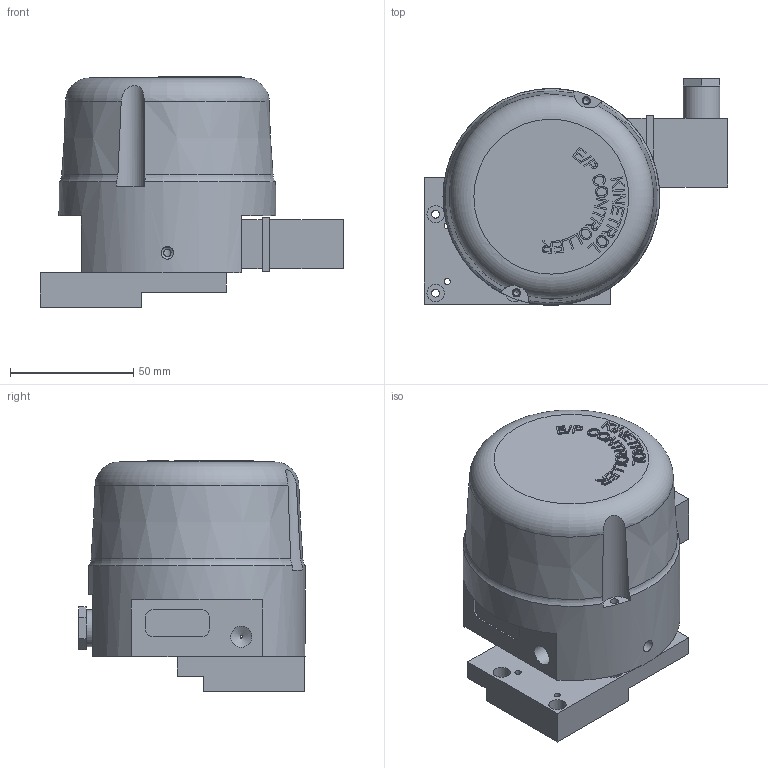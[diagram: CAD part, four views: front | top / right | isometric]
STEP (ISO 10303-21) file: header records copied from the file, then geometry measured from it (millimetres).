
FILE_DESCRIPTION(/* description */ ('Unknown'),/* implementation_level */ '2;1');
FILE_NAME(/* name */ '004-800APC ',/* time_stamp */ '2016-02-25T14:39:30+00:00',/* author */ ('Unknown'),/* organization */ ('Unknown'),/* preprocessor_version */ 'ST-DEVELOPER v16.7',/* originating_system */ 'DEX',/* authorisation */ $);
FILE_SCHEMA (('AUTOMOTIVE_DESIGN {1 0 10303 214 3 1 1}'));
Length unit declared in the file: millimetre
Products named in the file (1): 000-800APC SIMPLE IP Controller Assembly2
Bounding box: 123 x 92 x 93.6 mm (x, y, z)
Volume: 263474.7 mm3; surface area: 73537.8 mm2
Topology: 1 solids, 3 shells, 380 faces, 939 edges, 619 vertices
Faces by surface type: plane 261, cylinder 74, bspline 22, cone 20, torus 3
Full cylindrical faces by diameter (mm): 1 x1, 2.5 x7, 3 x3, 3.2 x8, 3.3 x8, 3.5 x4, 4 x1, 4.2 x3, 5 x1, 5.1 x1, 5.5 x2, 6 x4, 6.35 x3, 6.5 x1, 7 x4, 7.14 x1, 8.566 x1, 10 x1, 14.5 x1, 15 x1, 16 x1, 22 x1, 26.6 x1, 74.975 x1, 75.2 x1, 88 x1
Entity records: 17524 total; most frequent: CARTESIAN_POINT 6503, DIRECTION 1617, ORIENTED_EDGE 1592, EDGE_CURVE 796, VERTEX_POINT 573, LINE 559, VECTOR 559, FACE_BOUND 557
